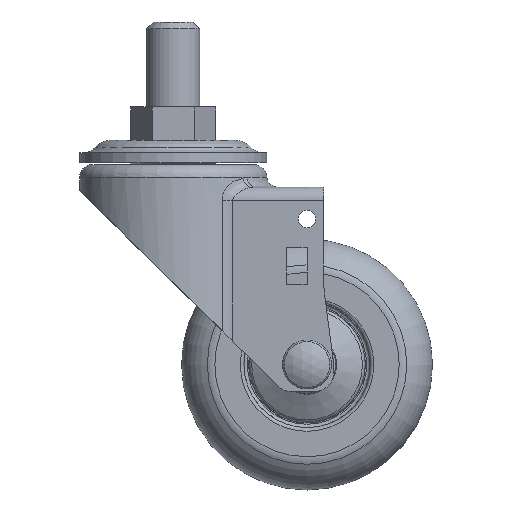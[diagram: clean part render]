
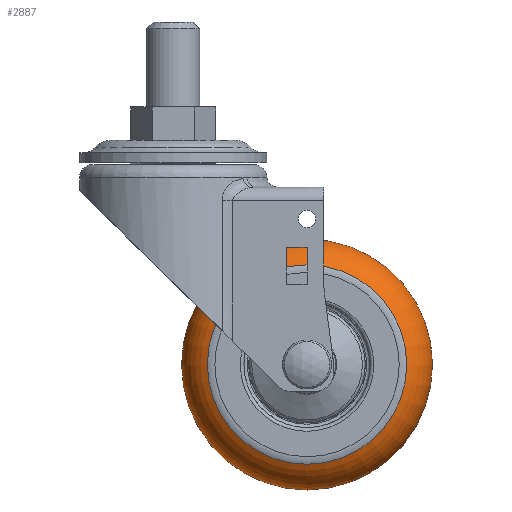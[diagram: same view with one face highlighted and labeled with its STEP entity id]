
A CAD part, front view. The second image highlights one B-rep face of the part: STEP entity #2887.
In plain terms, the highlighted toroidal (fillet/blend) face has major radius 23.51 mm and minor radius 14 mm.
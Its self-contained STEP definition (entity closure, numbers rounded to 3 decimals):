
#72=TOROIDAL_SURFACE('',#3186,23.51,14.);
#200=FACE_BOUND('',#865,.T.);
#345=CIRCLE('',#3174,37.5);
#351=CIRCLE('',#3185,29.807);
#577=FACE_OUTER_BOUND('',#864,.T.);
#864=EDGE_LOOP('',(#2209));
#865=EDGE_LOOP('',(#2210));
#1441=VERTEX_POINT('',#4686);
#1447=VERTEX_POINT('',#4703);
#1734=EDGE_CURVE('',#1441,#1441,#345,.T.);
#1740=EDGE_CURVE('',#1447,#1447,#351,.T.);
#2209=ORIENTED_EDGE('',*,*,#1740,.T.);
#2210=ORIENTED_EDGE('',*,*,#1734,.F.);
#2887=ADVANCED_FACE('',(#577,#200),#72,.T.);
#3174=AXIS2_PLACEMENT_3D('',#4687,#3734,#3735);
#3185=AXIS2_PLACEMENT_3D('',#4704,#3756,#3757);
#3186=AXIS2_PLACEMENT_3D('',#4705,#3758,#3759);
#3734=DIRECTION('center_axis',(0.,1.,0.));
#3735=DIRECTION('ref_axis',(1.,0.,0.));
#3756=DIRECTION('center_axis',(0.,1.,0.));
#3757=DIRECTION('ref_axis',(1.,0.,0.));
#3758=DIRECTION('center_axis',(0.,1.,0.));
#3759=DIRECTION('ref_axis',(0.,0.,1.));
#4686=CARTESIAN_POINT('',(31.5,0.,25.1));
#4687=CARTESIAN_POINT('Origin',(31.5,0.,-12.4));
#4703=CARTESIAN_POINT('',(31.5,-11.966,17.407));
#4704=CARTESIAN_POINT('Origin',(31.5,-11.966,-12.4));
#4705=CARTESIAN_POINT('Origin',(31.5,0.538,-12.4));
